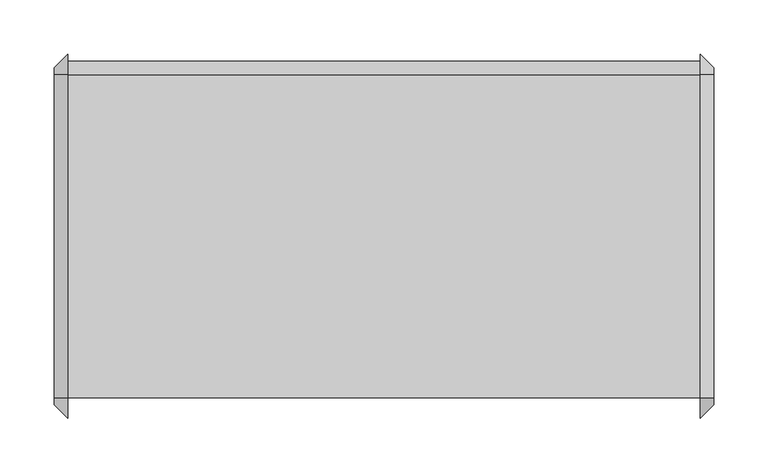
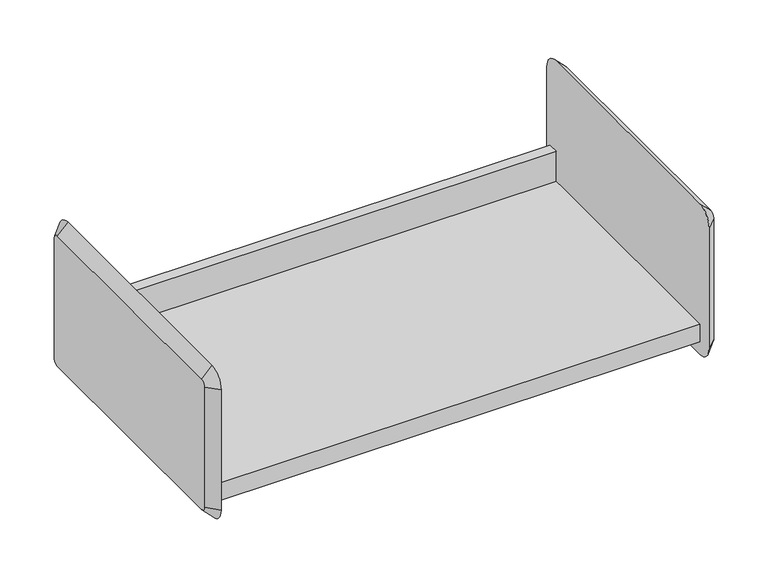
"""IFC4 building model written with IfcOpenShell, lengths in millimetres: furniture geometry."""

from ifc_helpers import new_model, si_unit, frame, origin, place, context, project, spatial, polyline, circle_curve, outline, extrude, source, transform, mapped, element, save
from ifc_brep_helpers import plane_surface, revolved_surface, advanced_brep


def furniture_20d6c35d(model_context):
    return source(origin(), model_context, "Body", "SolidModel", [
        extrude(outline(polyline([(-136.525, 1358.9), (161.925, 1358.9), (161.925, 1397.0), (174.625, 1397.0), (174.625, 1393.825), (165.1, 1393.825), (165.1, 1355.725), (-133.35, 1355.725), (-133.35, 1336.675), (-136.525, 1336.675), (-136.525, 1358.9)])), frame((-416.0420045, 0.0, 0.0), z_axis=(1.0, 0.0, 0.0), x_axis=(0.0, 1.0, 0.0)), (0.0, 0.0, 1.0), 584.2),
        advanced_brep(
        [(180.8579955, 161.925, 1498.6), (180.8579955, -136.525, 1498.6), (180.8579955, -142.875, 1492.25), (180.8579955, -142.875, 1339.85), (180.8579955, -136.525, 1333.5), (180.8579955, 161.925, 1333.5), (180.8579955, 168.275, 1339.85), (180.8579955, 168.275, 1492.25), (168.1579955, 161.925, 1511.3), (168.1579955, 180.975, 1492.25), (168.1579955, 180.975, 1339.85), (168.1579955, 161.925, 1320.8), (168.1579955, -136.525, 1320.8), (168.1579955, -155.575, 1339.85), (168.1579955, -155.575, 1492.25), (168.1579955, -136.525, 1511.3)],
        [
            (0, 1),
            (1, 2, circle_curve(frame((180.8579955, -136.525, 1492.25), z_axis=(1.0, 2.0730084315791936e-12, -2.1742607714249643e-12), x_axis=(2.1742640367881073e-12, 0.0, 1.0)), 6.35)),
            (2, 3),
            (3, 4, circle_curve(frame((180.8579955, -136.525, 1339.85), z_axis=(1.0, 2.061018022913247e-12, 2.0463630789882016e-12), x_axis=(2.0610603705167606e-12, -1.0, 0.0)), 6.35)),
            (4, 5),
            (5, 6, circle_curve(frame((180.8579955, 161.925, 1339.85), z_axis=(1.0, 2.088995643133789e-12, -2.1103119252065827e-12), x_axis=(-2.1103612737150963e-12, 0.0, -1.0)), 6.35)),
            (6, 7),
            (7, 0, circle_curve(frame((180.8579955, 161.925, 1492.25), z_axis=(1.0, 2.075672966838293e-12, 1.9824142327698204e-12), x_axis=(-2.075662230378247e-12, 1.0, 0.0)), 6.35)),
            (8, 9, circle_curve(frame((168.1579955, 161.925, 1492.25), z_axis=(-1.0, -2.075672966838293e-12, -1.9824142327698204e-12), x_axis=(-2.075662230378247e-12, 1.0, 0.0)), 19.05)),
            (9, 10),
            (10, 11, circle_curve(frame((168.1579955, 161.925, 1339.85), z_axis=(-1.0, -2.088995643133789e-12, 2.1103119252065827e-12), x_axis=(-2.1103612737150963e-12, 0.0, -1.0)), 19.05)),
            (11, 12),
            (12, 13, circle_curve(frame((168.1579955, -136.525, 1339.85), z_axis=(-1.0, -2.061018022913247e-12, -2.0463630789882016e-12), x_axis=(2.0610603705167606e-12, -1.0, 0.0)), 19.05)),
            (13, 14),
            (14, 15, circle_curve(frame((168.1579955, -136.525, 1492.25), z_axis=(-1.0, -2.0730084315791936e-12, 2.1742607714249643e-12), x_axis=(2.1742640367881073e-12, 0.0, 1.0)), 19.05)),
            (15, 8),
            (15, 1),
            (0, 8),
            (14, 2),
            (13, 3),
            (12, 4),
            (11, 5),
            (10, 6),
            (9, 7),
        ],
        [
            plane_surface(frame((180.8579955, 12.7, 1416.05), z_axis=(1.0, 0.0, 0.0), x_axis=(0.0, -1.0, 0.0))),
            plane_surface(frame((168.1579955, 12.7, 1416.05), z_axis=(-1.0, 0.0, 0.0), x_axis=(0.0, -1.0, 0.0))),
            plane_surface(frame((168.1579955, 12.7, 1511.3), z_axis=(0.7071067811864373, 0.0, 0.7071067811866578), x_axis=(0.0, -1.0, 0.0))),
            revolved_surface(polyline([(180.8579955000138, -136.525, 1498.5999999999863), (168.1579955, -136.525, 1511.3)]), (187.2079955, -136.525, 1492.25), (-1.0, -2.0730084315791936e-12, 2.1742607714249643e-12)),
            plane_surface(frame((168.1579955, -155.575, 1416.05), z_axis=(0.707106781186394, -0.7071067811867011, 0.0), x_axis=(0.0, 0.0, -1.0))),
            revolved_surface(polyline([(180.85799550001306, -142.87499999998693, 1339.85), (168.1579955, -155.575, 1339.85)]), (187.2079955, -136.525, 1339.85), (-1.0, -2.061018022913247e-12, -2.0463630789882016e-12)),
            plane_surface(frame((168.1579955, 12.7, 1320.8), z_axis=(0.7071067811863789, 0.0, -0.7071067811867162), x_axis=(0.0, 1.0, 0.0))),
            revolved_surface(polyline([(180.8579955, 161.925, 1333.5), (168.15799549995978, 161.925, 1320.7999999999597)]), (187.2079955, 161.925, 1339.85), (-1.0, -2.088995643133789e-12, 2.1103119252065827e-12)),
            plane_surface(frame((168.1579955, 180.975, 1416.05), z_axis=(0.707106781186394, 0.7071067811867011, 0.0), x_axis=(0.0, 0.0, 1.0))),
            revolved_surface(polyline([(180.8579955, 168.27500000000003, 1492.25), (168.15799549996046, 180.97500000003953, 1492.25)]), (187.2079955, 161.925, 1492.25), (-1.0, -2.075672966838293e-12, -1.9824142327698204e-12)),
        ],
        [
            (0, [[1, 2, 3, 4, 5, 6, 7, 8]]),
            (1, [[9, 10, 11, 12, 13, 14, 15, 16]]),
            (2, [[-16, 17, -1, 18]]),
            (3, [[-15, 19, -2, -17]]),
            (4, [[-14, 20, -3, -19]]),
            (5, [[-13, 21, -4, -20]]),
            (6, [[-12, 22, -5, -21]]),
            (7, [[-11, 23, -6, -22]]),
            (8, [[-10, 24, -7, -23]]),
            (9, [[-9, -18, -8, -24]]),
        ],
    ),
        advanced_brep(
        [(-428.7420045, -136.525, 1498.6), (-428.7420045, 161.925, 1498.6), (-428.7420045, 168.275, 1492.25), (-428.7420045, 168.275, 1339.85), (-428.7420045, 161.925, 1333.5), (-428.7420045, -136.525, 1333.5), (-428.7420045, -142.875, 1339.85), (-428.7420045, -142.875, 1492.25), (-416.0420045, -136.525, 1511.3), (-416.0420045, -155.575, 1492.25), (-416.0420045, -155.575, 1339.85), (-416.0420045, -136.525, 1320.8), (-416.0420045, 161.925, 1320.8), (-416.0420045, 180.975, 1339.85), (-416.0420045, 180.975, 1492.25), (-416.0420045, 161.925, 1511.3)],
        [
            (0, 1),
            (1, 2, circle_curve(frame((-428.7420045, 161.925, 1492.25), z_axis=(-1.0, 0.0, 0.0), x_axis=(0.0, 0.0, 1.0)), 6.35)),
            (2, 3),
            (3, 4, circle_curve(frame((-428.7420045, 161.925, 1339.85), z_axis=(-1.0, 0.0, 0.0), x_axis=(0.0, 1.0, 0.0)), 6.35)),
            (4, 5),
            (5, 6, circle_curve(frame((-428.7420045, -136.525, 1339.85), z_axis=(-1.0, 0.0, 0.0), x_axis=(0.0, 0.0, -1.0)), 6.35)),
            (6, 7),
            (7, 0, circle_curve(frame((-428.7420045, -136.525, 1492.25), z_axis=(-1.0, 0.0, 0.0), x_axis=(0.0, -1.0, 0.0)), 6.35)),
            (8, 9, circle_curve(frame((-416.0420045, -136.525, 1492.25), z_axis=(1.0, 0.0, 0.0), x_axis=(0.0, -1.0, 0.0)), 19.05)),
            (9, 10),
            (10, 11, circle_curve(frame((-416.0420045, -136.525, 1339.85), z_axis=(1.0, 0.0, 0.0), x_axis=(0.0, 0.0, -1.0)), 19.05)),
            (11, 12),
            (12, 13, circle_curve(frame((-416.0420045, 161.925, 1339.85), z_axis=(1.0, 0.0, 0.0), x_axis=(0.0, 1.0, 0.0)), 19.05)),
            (13, 14),
            (14, 15, circle_curve(frame((-416.0420045, 161.925, 1492.25), z_axis=(1.0, 0.0, 0.0), x_axis=(0.0, 0.0, 1.0)), 19.05)),
            (15, 8),
            (15, 1),
            (0, 8),
            (14, 2),
            (13, 3),
            (12, 4),
            (11, 5),
            (10, 6),
            (9, 7),
        ],
        [
            plane_surface(frame((-428.7420045, 12.7, 1416.05), z_axis=(-1.0, 0.0, 0.0), x_axis=(0.0, -1.0, 0.0))),
            plane_surface(frame((-416.0420045, 12.7, 1416.05), z_axis=(1.0, 0.0, 0.0), x_axis=(0.0, -1.0, 0.0))),
            plane_surface(frame((-416.0420045, 12.7, 1511.3), z_axis=(-0.7071067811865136, 0.0, 0.7071067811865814), x_axis=(0.0, 1.0, 0.0))),
            revolved_surface(polyline([(-428.7420045, 161.925, 1498.6), (-416.0420045, 161.925, 1511.3)]), (-435.0920045, 161.925, 1492.25), (1.0, 0.0, 0.0)),
            plane_surface(frame((-416.0420045, 180.975, 1416.05), z_axis=(-0.7071067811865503, 0.7071067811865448, 0.0), x_axis=(0.0, 0.0, -1.0))),
            revolved_surface(polyline([(-428.7420045, 168.27499999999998, 1339.85), (-416.0420045, 180.975, 1339.85)]), (-435.0920045, 161.925, 1339.85), (1.0, 0.0, 0.0)),
            plane_surface(frame((-416.0420045, 12.7, 1320.8), z_axis=(-0.707106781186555, 0.0, -0.70710678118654), x_axis=(0.0, -1.0, 0.0))),
            revolved_surface(polyline([(-428.7420045, -136.525, 1333.5), (-416.0420045, -136.525, 1320.8)]), (-435.0920045, -136.525, 1339.85), (1.0, 0.0, 0.0)),
            plane_surface(frame((-416.0420045, -155.575, 1416.05), z_axis=(-0.7071067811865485, -0.7071067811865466, 0.0), x_axis=(0.0, 0.0, 1.0))),
            revolved_surface(polyline([(-428.7420045, -142.87499999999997, 1492.25), (-416.0420045, -155.575, 1492.25)]), (-435.0920045, -136.525, 1492.25), (1.0, 0.0, 0.0)),
        ],
        [
            (0, [[1, 2, 3, 4, 5, 6, 7, 8]]),
            (1, [[9, 10, 11, 12, 13, 14, 15, 16]]),
            (2, [[-16, 17, -1, 18]]),
            (3, [[-15, 19, -2, -17]]),
            (4, [[-14, 20, -3, -19]]),
            (5, [[-13, 21, -4, -20]]),
            (6, [[-12, 22, -5, -21]]),
            (7, [[-11, 23, -6, -22]]),
            (8, [[-10, 24, -7, -23]]),
            (9, [[-9, -18, -8, -24]]),
        ],
    ),
    ])


if __name__ == "__main__":
    model = new_model("IFC4")
    model_context = context("Model", 3, world=origin())
    ifc_project = project(units=[si_unit("LENGTHUNIT", "METRE", prefix="MILLI")], contexts=[model_context])
    site = spatial("IfcSite", under=ifc_project)
    building = spatial("IfcBuilding", under=site)
    placement = place(None, origin())
    furniture_shape = furniture_20d6c35d(model_context)
    element("IfcFurniture", 1, ObjectType="HermanMiller_ActionOffice_A3220_B-StyleStorageDisplay : Shelf 13\"D x 24\"W", at=placement, inside=building, context=model_context, shape_type="MappedRepresentation", body=[
        mapped(furniture_shape, transform((0.0, 0.0, 0.0), x_axis=(1.0, 0.0, 0.0), y_axis=(0.0, 1.0, 0.0), z_axis=(0.0, 0.0, 1.0))),
    ])
    save(model, "model.ifc")
